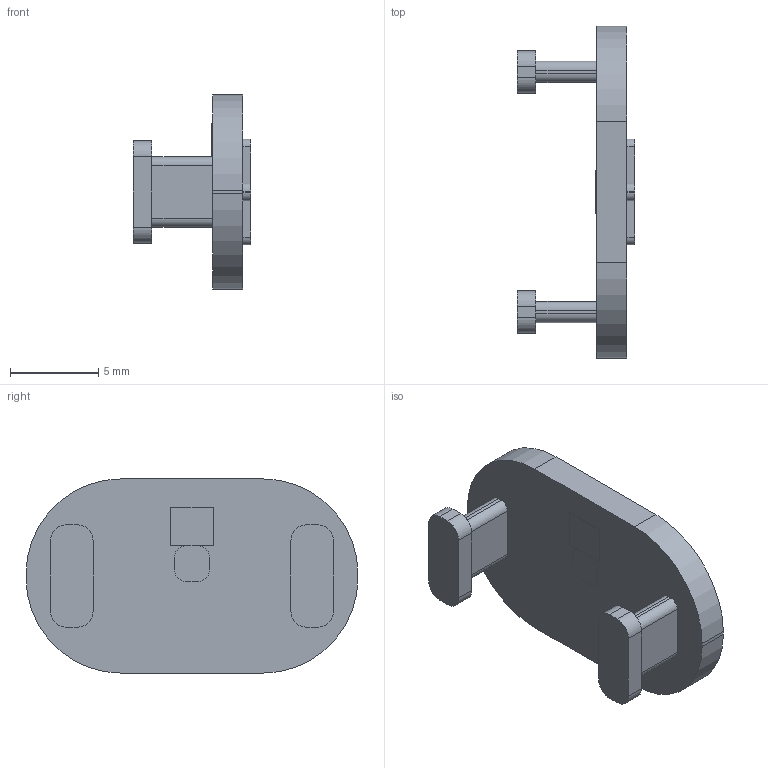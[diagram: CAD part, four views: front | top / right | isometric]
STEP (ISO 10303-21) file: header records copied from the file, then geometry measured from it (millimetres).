
FILE_DESCRIPTION(/* description */ (''),/* implementation_level */ '2;1');
FILE_NAME(/* name */ 'P06.step',/* time_stamp */ '2026-09-14T14:30:35-07:00',/* author */ (''),/* organization */ (''),/* preprocessor_version */ 'ST-DEVELOPER v20.1',/* originating_system */ 'Autodesk Translation Framework v15.8.0.0',/* authorisation */ '');
FILE_SCHEMA (('AUTOMOTIVE_DESIGN { 1 0 10303 214 3 1 1 }'));
Length unit declared in the file: millimetre
Products named in the file (1): 2026-09-14-14-30-35-346
Bounding box: 6.65 x 18.8 x 11 mm (x, y, z)
Volume: 373.5 mm3; surface area: 591.3 mm2
Topology: 1 solids, 1 shells, 80 faces, 216 edges, 144 vertices
Faces by surface type: plane 48, cylinder 32
Entity records: 2557 total; most frequent: DIRECTION 442, CARTESIAN_POINT 441, ORIENTED_EDGE 432, EDGE_CURVE 216, LINE 152, VECTOR 152, AXIS2_PLACEMENT_3D 145, VERTEX_POINT 144
